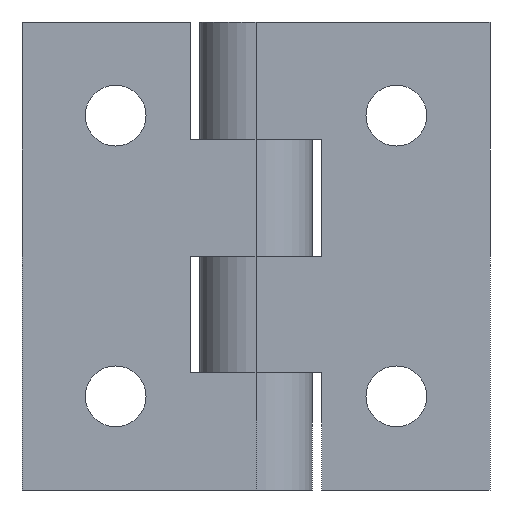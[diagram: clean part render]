
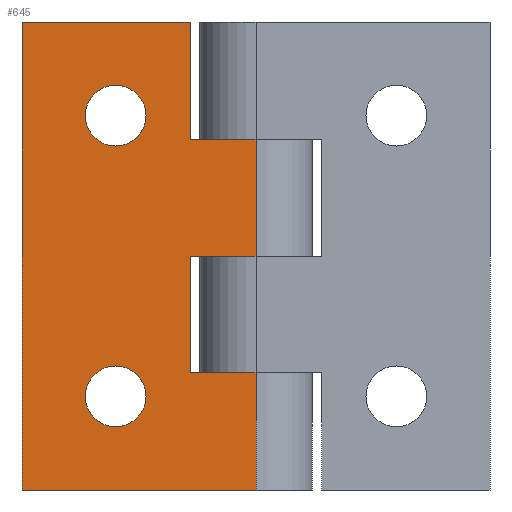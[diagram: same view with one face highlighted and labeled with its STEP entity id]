
A CAD part, front view. The second image highlights one B-rep face of the part: STEP entity #645.
In plain terms, the highlighted planar face has unit normal (0, -1, 0).
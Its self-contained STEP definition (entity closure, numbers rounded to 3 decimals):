
#35 = DIRECTION ( 'NONE',  ( 0., 1., 0. ) ) ;
#58 = AXIS2_PLACEMENT_3D ( 'NONE', #563, #1968, #1712 ) ;
#76 = ORIENTED_EDGE ( 'NONE', *, *, #470, .T. ) ;
#83 = VECTOR ( 'NONE', #436, 1000. ) ;
#141 = CARTESIAN_POINT ( 'NONE',  ( 25., 14., 0. ) ) ;
#146 = ORIENTED_EDGE ( 'NONE', *, *, #493, .F. ) ;
#152 = ORIENTED_EDGE ( 'NONE', *, *, #1585, .T. ) ;
#159 = VERTEX_POINT ( 'NONE', #459 ) ;
#161 = CIRCLE ( 'NONE', #498, 3.25 ) ;
#164 = CARTESIAN_POINT ( 'NONE',  ( 0., 14., -25. ) ) ;
#169 = VECTOR ( 'NONE', #207, 1000. ) ;
#207 = DIRECTION ( 'NONE',  ( 1., 0., 0. ) ) ;
#214 = CARTESIAN_POINT ( 'NONE',  ( 31., 14., -12.5 ) ) ;
#220 = DIRECTION ( 'NONE',  ( 0., 0., -1. ) ) ;
#260 = VERTEX_POINT ( 'NONE', #164 ) ;
#289 = CARTESIAN_POINT ( 'NONE',  ( 10., 14., 15. ) ) ;
#293 = EDGE_CURVE ( 'NONE', #587, #821, #2129, .T. ) ;
#313 = EDGE_CURVE ( 'NONE', #884, #1137, #2312, .T. ) ;
#335 = DIRECTION ( 'NONE',  ( -1., 0., 0. ) ) ;
#346 = DIRECTION ( 'NONE',  ( -1., 0., 0. ) ) ;
#412 = AXIS2_PLACEMENT_3D ( 'NONE', #816, #575, #335 ) ;
#426 = VECTOR ( 'NONE', #1826, 1000. ) ;
#436 = DIRECTION ( 'NONE',  ( 0., 0., -1. ) ) ;
#442 = CARTESIAN_POINT ( 'NONE',  ( 25., 14., -25. ) ) ;
#450 = VECTOR ( 'NONE', #1475, 1000. ) ;
#452 = LINE ( 'NONE', #214, #1376 ) ;
#459 = CARTESIAN_POINT ( 'NONE',  ( 18., 14., -12.5 ) ) ;
#470 = EDGE_CURVE ( 'NONE', #821, #587, #1173, .T. ) ;
#493 = EDGE_CURVE ( 'NONE', #2060, #730, #937, .T. ) ;
#498 = AXIS2_PLACEMENT_3D ( 'NONE', #2261, #1285, #1036 ) ;
#550 = EDGE_LOOP ( 'NONE', ( #1925, #2198, #1977, #2313, #551, #729, #146, #2233, #782, #1681 ) ) ;
#551 = ORIENTED_EDGE ( 'NONE', *, *, #552, .F. ) ;
#552 = EDGE_CURVE ( 'NONE', #813, #1609, #1434, .T. ) ;
#557 = EDGE_CURVE ( 'NONE', #159, #884, #452, .T. ) ;
#563 = CARTESIAN_POINT ( 'NONE',  ( 10., 14., 15. ) ) ;
#575 = DIRECTION ( 'NONE',  ( 0., 1., 0. ) ) ;
#586 = DIRECTION ( 'NONE',  ( 0., 1., 0. ) ) ;
#587 = VERTEX_POINT ( 'NONE', #706 ) ;
#645 = ADVANCED_FACE ( 'NONE', ( #1436, #1739, #1492 ), #1074, .F. ) ;
#647 = CARTESIAN_POINT ( 'NONE',  ( 13.25, 14., -15. ) ) ;
#672 = DIRECTION ( 'NONE',  ( 1., 0., 0. ) ) ;
#689 = CARTESIAN_POINT ( 'NONE',  ( 18., 14., 25. ) ) ;
#694 = LINE ( 'NONE', #442, #169 ) ;
#706 = CARTESIAN_POINT ( 'NONE',  ( 6.75, 14., 15. ) ) ;
#729 = ORIENTED_EDGE ( 'NONE', *, *, #1934, .F. ) ;
#730 = VERTEX_POINT ( 'NONE', #1754 ) ;
#733 = CIRCLE ( 'NONE', #412, 3.25 ) ;
#782 = ORIENTED_EDGE ( 'NONE', *, *, #834, .T. ) ;
#813 = VERTEX_POINT ( 'NONE', #1402 ) ;
#816 = CARTESIAN_POINT ( 'NONE',  ( 10., 14., -15. ) ) ;
#821 = VERTEX_POINT ( 'NONE', #1156 ) ;
#829 = CARTESIAN_POINT ( 'NONE',  ( 25., 14., 25. ) ) ;
#834 = EDGE_CURVE ( 'NONE', #1175, #260, #1579, .T. ) ;
#884 = VERTEX_POINT ( 'NONE', #1092 ) ;
#925 = CARTESIAN_POINT ( 'NONE',  ( 25., 14., 25. ) ) ;
#937 = LINE ( 'NONE', #689, #83 ) ;
#945 = ORIENTED_EDGE ( 'NONE', *, *, #293, .T. ) ;
#947 = DIRECTION ( 'NONE',  ( 0., 0., -1. ) ) ;
#1013 = EDGE_CURVE ( 'NONE', #1175, #2060, #1160, .T. ) ;
#1036 = DIRECTION ( 'NONE',  ( -1., 0., 0. ) ) ;
#1062 = CARTESIAN_POINT ( 'NONE',  ( 25., 14., -25. ) ) ;
#1074 = PLANE ( 'NONE',  #1443 ) ;
#1092 = CARTESIAN_POINT ( 'NONE',  ( 25., 14., -12.5 ) ) ;
#1109 = DIRECTION ( 'NONE',  ( -1., 0., 0. ) ) ;
#1113 = VERTEX_POINT ( 'NONE', #1796 ) ;
#1137 = VERTEX_POINT ( 'NONE', #1062 ) ;
#1156 = CARTESIAN_POINT ( 'NONE',  ( 13.25, 14., 15. ) ) ;
#1160 = LINE ( 'NONE', #925, #2368 ) ;
#1173 = CIRCLE ( 'NONE', #58, 3.25 ) ;
#1175 = VERTEX_POINT ( 'NONE', #1596 ) ;
#1181 = CARTESIAN_POINT ( 'NONE',  ( 25., 14., 25. ) ) ;
#1185 = VECTOR ( 'NONE', #1611, 1000. ) ;
#1285 = DIRECTION ( 'NONE',  ( 0., 1., 0. ) ) ;
#1332 = EDGE_LOOP ( 'NONE', ( #945, #76 ) ) ;
#1337 = CARTESIAN_POINT ( 'NONE',  ( 0., 14., 25. ) ) ;
#1342 = CARTESIAN_POINT ( 'NONE',  ( 31., 14., 0. ) ) ;
#1376 = VECTOR ( 'NONE', #2359, 1000. ) ;
#1377 = CARTESIAN_POINT ( 'NONE',  ( 18., 14., 25. ) ) ;
#1402 = CARTESIAN_POINT ( 'NONE',  ( 25., 14., 12.5 ) ) ;
#1434 = LINE ( 'NONE', #1181, #1732 ) ;
#1436 = FACE_BOUND ( 'NONE', #1332, .T. ) ;
#1443 = AXIS2_PLACEMENT_3D ( 'NONE', #829, #586, #346 ) ;
#1475 = DIRECTION ( 'NONE',  ( 1., 0., 0. ) ) ;
#1483 = ORIENTED_EDGE ( 'NONE', *, *, #2354, .T. ) ;
#1486 = EDGE_LOOP ( 'NONE', ( #152, #1483 ) ) ;
#1492 = FACE_OUTER_BOUND ( 'NONE', #550, .T. ) ;
#1536 = CARTESIAN_POINT ( 'NONE',  ( 18., 14., 0. ) ) ;
#1579 = LINE ( 'NONE', #1337, #1817 ) ;
#1585 = EDGE_CURVE ( 'NONE', #1113, #2042, #161, .T. ) ;
#1586 = LINE ( 'NONE', #1342, #1627 ) ;
#1596 = CARTESIAN_POINT ( 'NONE',  ( 0., 14., 25. ) ) ;
#1609 = VERTEX_POINT ( 'NONE', #141 ) ;
#1611 = DIRECTION ( 'NONE',  ( 0., 0., -1. ) ) ;
#1627 = VECTOR ( 'NONE', #1109, 1000. ) ;
#1659 = AXIS2_PLACEMENT_3D ( 'NONE', #289, #35, #2193 ) ;
#1681 = ORIENTED_EDGE ( 'NONE', *, *, #2334, .T. ) ;
#1712 = DIRECTION ( 'NONE',  ( -1., 0., 0. ) ) ;
#1713 = CARTESIAN_POINT ( 'NONE',  ( 31., 14., 12.5 ) ) ;
#1732 = VECTOR ( 'NONE', #947, 1000. ) ;
#1739 = FACE_BOUND ( 'NONE', #1486, .T. ) ;
#1754 = CARTESIAN_POINT ( 'NONE',  ( 18., 14., 12.5 ) ) ;
#1796 = CARTESIAN_POINT ( 'NONE',  ( 6.75, 14., -15. ) ) ;
#1817 = VECTOR ( 'NONE', #220, 1000. ) ;
#1826 = DIRECTION ( 'NONE',  ( 0., 0., -1. ) ) ;
#1859 = CARTESIAN_POINT ( 'NONE',  ( 18., 14., 0. ) ) ;
#1925 = ORIENTED_EDGE ( 'NONE', *, *, #313, .F. ) ;
#1934 = EDGE_CURVE ( 'NONE', #730, #813, #1970, .T. ) ;
#1959 = EDGE_CURVE ( 'NONE', #2346, #159, #2097, .T. ) ;
#1968 = DIRECTION ( 'NONE',  ( 0., 1., 0. ) ) ;
#1970 = LINE ( 'NONE', #1713, #450 ) ;
#1977 = ORIENTED_EDGE ( 'NONE', *, *, #1959, .F. ) ;
#2042 = VERTEX_POINT ( 'NONE', #647 ) ;
#2060 = VERTEX_POINT ( 'NONE', #1377 ) ;
#2069 = CARTESIAN_POINT ( 'NONE',  ( 25., 14., 25. ) ) ;
#2097 = LINE ( 'NONE', #1859, #1185 ) ;
#2129 = CIRCLE ( 'NONE', #1659, 3.25 ) ;
#2193 = DIRECTION ( 'NONE',  ( -1., 0., 0. ) ) ;
#2198 = ORIENTED_EDGE ( 'NONE', *, *, #557, .F. ) ;
#2233 = ORIENTED_EDGE ( 'NONE', *, *, #1013, .F. ) ;
#2261 = CARTESIAN_POINT ( 'NONE',  ( 10., 14., -15. ) ) ;
#2295 = EDGE_CURVE ( 'NONE', #1609, #2346, #1586, .T. ) ;
#2312 = LINE ( 'NONE', #2069, #426 ) ;
#2313 = ORIENTED_EDGE ( 'NONE', *, *, #2295, .F. ) ;
#2334 = EDGE_CURVE ( 'NONE', #260, #1137, #694, .T. ) ;
#2346 = VERTEX_POINT ( 'NONE', #1536 ) ;
#2354 = EDGE_CURVE ( 'NONE', #2042, #1113, #733, .T. ) ;
#2359 = DIRECTION ( 'NONE',  ( 1., 0., 0. ) ) ;
#2368 = VECTOR ( 'NONE', #672, 1000. ) ;
